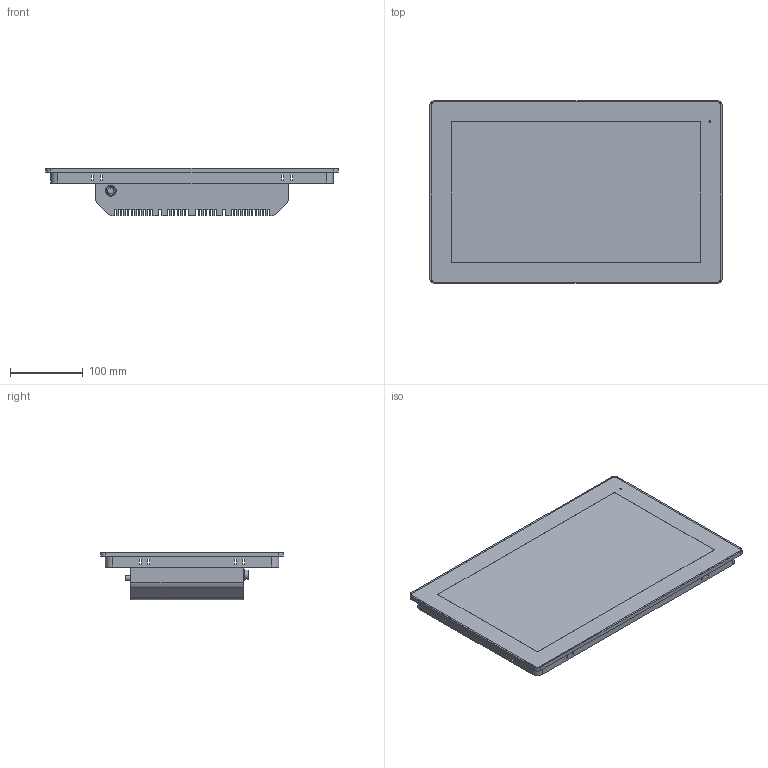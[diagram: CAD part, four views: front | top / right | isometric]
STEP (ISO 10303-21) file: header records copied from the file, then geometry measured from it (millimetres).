
FILE_DESCRIPTION (( 'STEP AP203' ), '1' );
FILE_NAME ('HST1506B Panel PC.STEP', '2026-06-09T13:35:05', ( '' ), ( '' ), 'SwSTEP 2.0', 'SolidWorks 2019', '' );
FILE_SCHEMA (( 'CONFIG_CONTROL_DESIGN' ));
Length unit declared in the file: millimetre
Products named in the file (1): HST1506B Panel PC
Bounding box: 402.76 x 252.19 x 65.5 mm (x, y, z)
Volume: 3558535.9 mm3; surface area: 401721.2 mm2
Topology: 1 solids, 1 shells, 360 faces, 1016 edges, 668 vertices
Faces by surface type: plane 274, cylinder 58, cone 28
Entity records: 11673 total; most frequent: CARTESIAN_POINT 2045, ORIENTED_EDGE 2032, DIRECTION 1882, EDGE_CURVE 1016, VECTOR 872, LINE 872, VERTEX_POINT 668, AXIS2_PLACEMENT_3D 505
